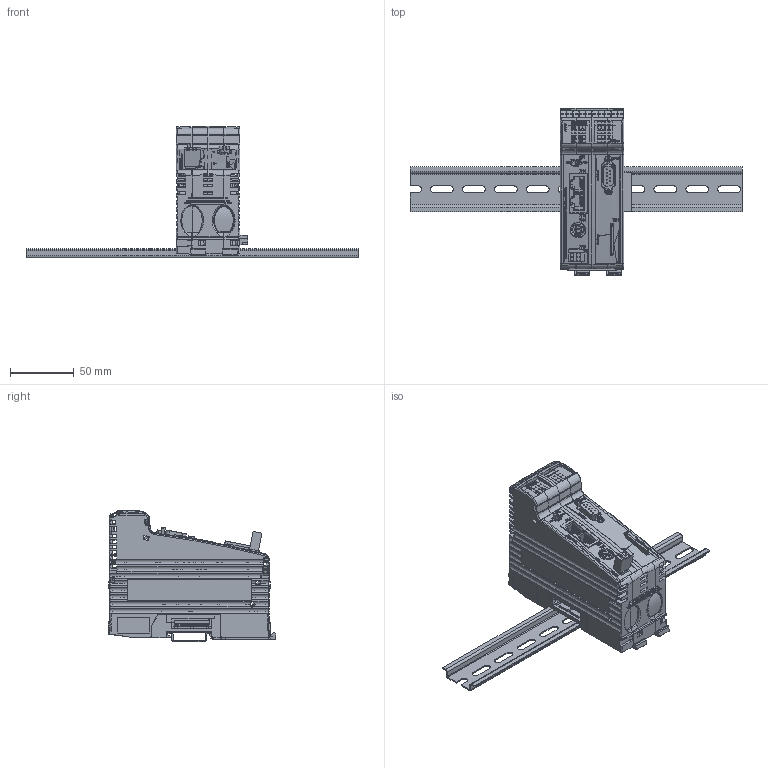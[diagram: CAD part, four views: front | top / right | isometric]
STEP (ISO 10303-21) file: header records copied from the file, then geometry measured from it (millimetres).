
FILE_DESCRIPTION(/* description */ ('FG'),/* implementation_level */ '2;1');
FILE_NAME(/* name */ 'FG_JC-350_001_01',/* time_stamp */ '2016-06-23T14:19:18+02:00',/* author */ ('T. Busch'),/* organization */ ('Jetter AG'),/* preprocessor_version */ 'ST-DEVELOPER v16.7',/* originating_system */ 'DEX',/* authorisation */ $);
FILE_SCHEMA (('AUTOMOTIVE_DESIGN {1 0 10303 214 3 1 1}'));
Products named in the file (32): FG_JC-350_001_01; GE_JC-350_001_01; Sw-LI_JX3_001_01; PCBY_JX3-BN-SW_009_02; BU_08_MINIDIN; BU_RJ45_LED_GRGE_2X; S_R-RO-R_MENTOR; ST_02_E_WI_RM3_5_A; BL_JX3-BN-SW_019_02; LL_JX3_003_02; Sw-RE_JX3_001_01; FO_JC-350_001_01; Mk_JX3_001_06; BL_JXX_001_01; FO_JX3-Lichtgrau_001_00; BL_JC-340_020_00; PCBY_JC-360_001_02; BU_9_SUB_D_WI_R-LATCH_SMD; KT_UNC_M3; Mk_JX3_002_01; SD-CARD; Rivet_B_M_DIN_7340_2.5x0.25x3.5_v10.50; BOY_JX3-BP_A1_002_01; PCBY_JX3-BP-BN50_001_00; PCB_JX3-BP-BN50_001_00; ST_10_E_WI_RM2_54; BO_JX3_001_01; DE_JX3_001_00; BO_JX3_002_01; KT_Din_Schiene_Niedrig; BLZF_3_5_2_SN_SW_1690420000; Bc_Weidmüller_001
Assembly tree (44 placements, depth 4):
  FG_JC-350_001_01
    GE_JC-350_001_01
      Sw-LI_JX3_001_01
      PCBY_JX3-BN-SW_009_02
        BU_08_MINIDIN
        BU_RJ45_LED_GRGE_2X
        S_R-RO-R_MENTOR
        ST_02_E_WI_RM3_5_A
      BL_JX3-BN-SW_019_02
      LL_JX3_003_02  x2
      Sw-RE_JX3_001_01
      FO_JC-350_001_01
      Mk_JX3_001_06
      BL_JXX_001_01
      FO_JX3-Lichtgrau_001_00
      BL_JC-340_020_00
      PCBY_JC-360_001_02
        BU_9_SUB_D_WI_R-LATCH_SMD
      KT_UNC_M3  x2
      Mk_JX3_002_01
      SD-CARD
      Rivet_B_M_DIN_7340_2.5x0.25x3.5_v10.50  x2
    BOY_JX3-BP_A1_002_01
      PCBY_JX3-BP-BN50_001_00
        PCB_JX3-BP-BN50_001_00
        ST_10_E_WI_RM2_54
      BO_JX3_001_01
      DE_JX3_001_00  x2
      BO_JX3_002_01
    KT_Din_Schiene_Niedrig
    BLZF_3_5_2_SN_SW_1690420000
    Bc_Weidmüller_001  x10
Bounding box: 260 x 131.39 x 103.36 mm (x, y, z)
Volume: 136615.4 mm3; surface area: 180982.7 mm2
Topology: 56 solids, 63 shells, 7312 faces, 20003 edges, 12859 vertices
Faces by surface type: plane 5261, cylinder 1171, bspline 383, cone 329, sphere 120, torus 48
Full cylindrical faces by diameter (mm): 0.2 x2, 0.5 x18, 0.6 x3, 0.8 x17, 1 x11, 2 x2, 2.156 x2, 2.2 x2, 2.5 x6, 3 x2, 3.2 x2, 10.4 x1, 12.5 x1
Entity records: 243163 total; most frequent: CARTESIAN_POINT 67593, ORIENTED_EDGE 34254, DIRECTION 30632, EDGE_CURVE 17127, LINE 13486, VECTOR 13486, VERTEX_POINT 11285, AXIS2_PLACEMENT_3D 8573
